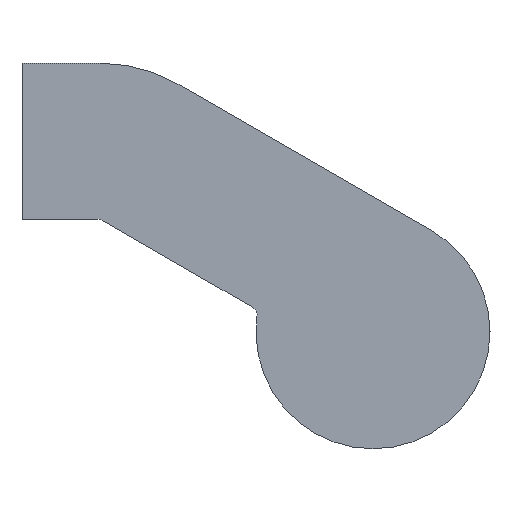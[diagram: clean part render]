
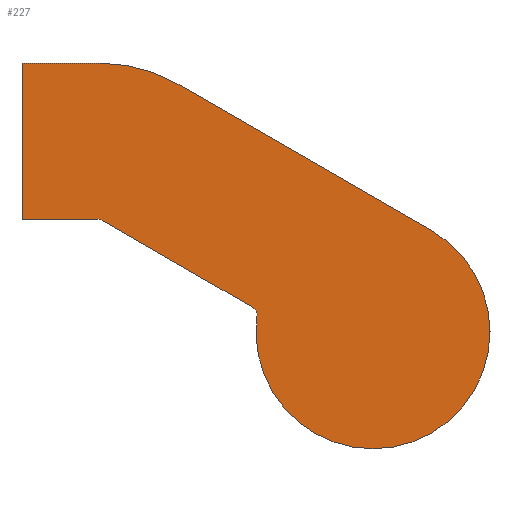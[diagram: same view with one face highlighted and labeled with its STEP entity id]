
A CAD part, left-side view. The second image highlights one B-rep face of the part: STEP entity #227.
In plain terms, the highlighted planar face has unit normal (-1, 0, 0).
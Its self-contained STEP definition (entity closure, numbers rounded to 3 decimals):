
#119 = VERTEX_POINT( '', #314 );
#121 = EDGE_CURVE( '', #273, #119, #316, .T. );
#131 = EDGE_CURVE( '', #245, #189, #326, .T. );
#153 = EDGE_CURVE( '', #255, #245, #351, .T. );
#165 = VERTEX_POINT( '', #364 );
#171 = EDGE_CURVE( '', #165, #219, #371, .T. );
#181 = EDGE_CURVE( '', #217, #193, #383, .T. );
#189 = VERTEX_POINT( '', #391 );
#193 = VERTEX_POINT( '', #395 );
#217 = VERTEX_POINT( '', #422 );
#219 = VERTEX_POINT( '', #424 );
#221 = EDGE_CURVE( '', #189, #273, #426, .T. );
#227 = ADVANCED_FACE( '', ( #433 ), #434, .F. );
#229 = EDGE_CURVE( '', #219, #255, #436, .T. );
#243 = VERTEX_POINT( '', #454 );
#245 = VERTEX_POINT( '', #456 );
#247 = EDGE_CURVE( '', #243, #165, #458, .T. );
#251 = EDGE_CURVE( '', #193, #243, #462, .T. );
#255 = VERTEX_POINT( '', #466 );
#273 = VERTEX_POINT( '', #486 );
#281 = EDGE_CURVE( '', #119, #217, #494, .T. );
#314 = CARTESIAN_POINT( '', ( -11., 0., 4. ) );
#316 = LINE( '', #522, #523 );
#326 = CIRCLE( '', #538, 0.5 );
#351 = LINE( '', #571, #572 );
#364 = CARTESIAN_POINT( '', ( -11., -15., -14.97 ) );
#371 = CIRCLE( '', #599, 6. );
#383 = CIRCLE( '', #614, 8. );
#391 = CARTESIAN_POINT( '', ( -11., -3.866, -4. ) );
#395 = CARTESIAN_POINT( '', ( -11., -8., 2.928 ) );
#422 = CARTESIAN_POINT( '', ( -11., -4., 4. ) );
#424 = CARTESIAN_POINT( '', ( -11., -12.05, -9.003 ) );
#426 = LINE( '', #669, #670 );
#433 = FACE_OUTER_BOUND( '', #677, .T. );
#434 = PLANE( '', #678 );
#436 = CIRCLE( '', #681, 0.5 );
#454 = CARTESIAN_POINT( '', ( -11., -21., -4.577 ) );
#456 = CARTESIAN_POINT( '', ( -11., -4.116, -4.067 ) );
#458 = CIRCLE( '', #706, 6. );
#462 = LINE( '', #713, #714 );
#466 = CARTESIAN_POINT( '', ( -11., -11.804, -8.506 ) );
#486 = CARTESIAN_POINT( '', ( -11., 0., -4. ) );
#494 = LINE( '', #760, #761 );
#522 = CARTESIAN_POINT( '', ( -11., 0., -4. ) );
#523 = VECTOR( '', #785, 1. );
#538 = AXIS2_PLACEMENT_3D( '', #792, #793, #794 );
#571 = CARTESIAN_POINT( '', ( -11., -11.804, -8.506 ) );
#572 = VECTOR( '', #828, 1. );
#599 = AXIS2_PLACEMENT_3D( '', #853, #854, #855 );
#614 = AXIS2_PLACEMENT_3D( '', #873, #874, #875 );
#669 = CARTESIAN_POINT( '', ( -11., -3.866, -4. ) );
#670 = VECTOR( '', #916, 1. );
#677 = EDGE_LOOP( '', ( #932, #933, #934, #935, #936, #937, #938, #939, #940, #941 ) );
#678 = AXIS2_PLACEMENT_3D( '', #942, #943, #944 );
#681 = AXIS2_PLACEMENT_3D( '', #945, #946, #947 );
#706 = AXIS2_PLACEMENT_3D( '', #969, #970, #971 );
#713 = CARTESIAN_POINT( '', ( -11., -8., 2.928 ) );
#714 = VECTOR( '', #973, 1. );
#760 = CARTESIAN_POINT( '', ( -11., 0., 4. ) );
#761 = VECTOR( '', #999, 1. );
#785 = DIRECTION( '', ( 0., 0., 1. ) );
#792 = CARTESIAN_POINT( '', ( -11., -3.866, -4.5 ) );
#793 = DIRECTION( '', ( -1., 0., 0. ) );
#794 = DIRECTION( '', ( 0., -0.5, 0.866 ) );
#828 = DIRECTION( '', ( 0., 0.866, 0.5 ) );
#853 = CARTESIAN_POINT( '', ( -11., -18., -9.774 ) );
#854 = DIRECTION( '', ( 1., 0., 0. ) );
#855 = DIRECTION( '', ( 0., -0.5, 0.866 ) );
#873 = CARTESIAN_POINT( '', ( -11., -4., -4. ) );
#874 = DIRECTION( '', ( 1., 0., 0. ) );
#875 = DIRECTION( '', ( 0., 0., 1. ) );
#916 = DIRECTION( '', ( 0., 1., 0. ) );
#932 = ORIENTED_EDGE( '', *, *, #181, .F. );
#933 = ORIENTED_EDGE( '', *, *, #281, .F. );
#934 = ORIENTED_EDGE( '', *, *, #121, .F. );
#935 = ORIENTED_EDGE( '', *, *, #221, .F. );
#936 = ORIENTED_EDGE( '', *, *, #131, .F. );
#937 = ORIENTED_EDGE( '', *, *, #153, .F. );
#938 = ORIENTED_EDGE( '', *, *, #229, .F. );
#939 = ORIENTED_EDGE( '', *, *, #171, .F. );
#940 = ORIENTED_EDGE( '', *, *, #247, .F. );
#941 = ORIENTED_EDGE( '', *, *, #251, .F. );
#942 = CARTESIAN_POINT( '', ( -11., 0., 0. ) );
#943 = DIRECTION( '', ( 1., 0., 0. ) );
#944 = DIRECTION( '', ( 0., 0., -1. ) );
#945 = CARTESIAN_POINT( '', ( -11., -11.554, -8.939 ) );
#946 = DIRECTION( '', ( -1., 0., 0. ) );
#947 = DIRECTION( '', ( 0., -0.992, -0.128 ) );
#969 = CARTESIAN_POINT( '', ( -11., -18., -9.774 ) );
#970 = DIRECTION( '', ( 1., 0., 0. ) );
#971 = DIRECTION( '', ( 0., -0.5, 0.866 ) );
#973 = DIRECTION( '', ( 0., -0.866, -0.5 ) );
#999 = DIRECTION( '', ( 0., -1., 0. ) );
